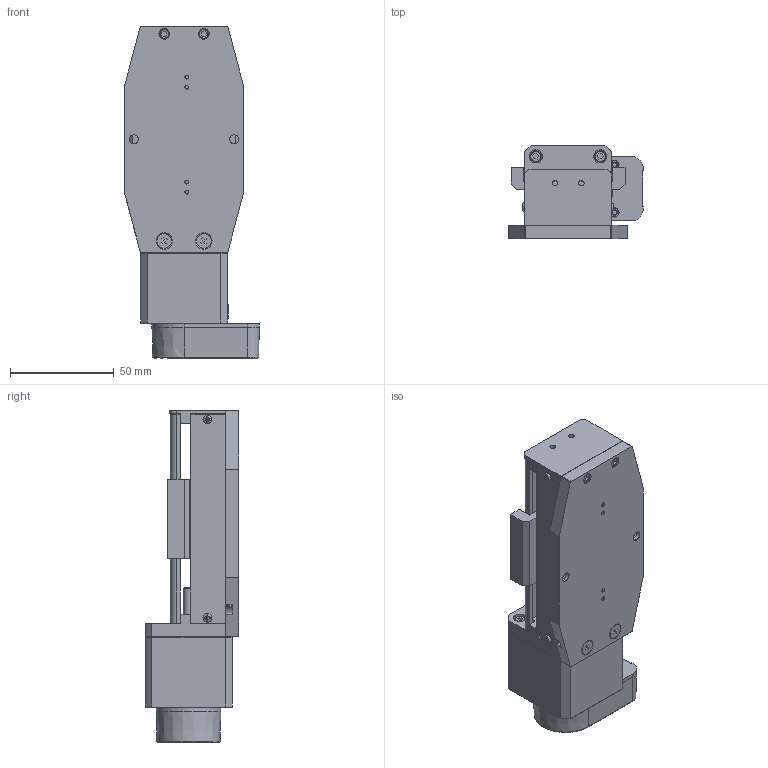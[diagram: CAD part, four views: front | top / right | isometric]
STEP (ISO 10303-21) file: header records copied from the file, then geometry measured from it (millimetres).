
FILE_DESCRIPTION (( 'STEP AP214' ), '1' );
FILE_NAME ('L3506.050-STB_v2_20180817.STEP', '2018-08-22T11:33:54', ( '' ), ( '' ), 'SwSTEP 2.0', 'SolidWorks 2017', '' );
FILE_SCHEMA (( 'AUTOMOTIVE_DESIGN' ));
Length unit declared in the file: millimetre
Products named in the file (1): L3506.050-STB_v2_20180817
Bounding box: 64.8 x 45.21 x 159.84 mm (x, y, z)
Volume: 168126.5 mm3; surface area: 89776.3 mm2
Topology: 36 solids, 40 shells, 1733 faces, 4371 edges, 2790 vertices
Faces by surface type: plane 804, cylinder 524, cone 350, bspline 55
Entity records: 55107 total; most frequent: CARTESIAN_POINT 12367, DIRECTION 8862, ORIENTED_EDGE 8698, EDGE_CURVE 4349, AXIS2_PLACEMENT_3D 3162, VERTEX_POINT 2790, LINE 2538, VECTOR 2538
